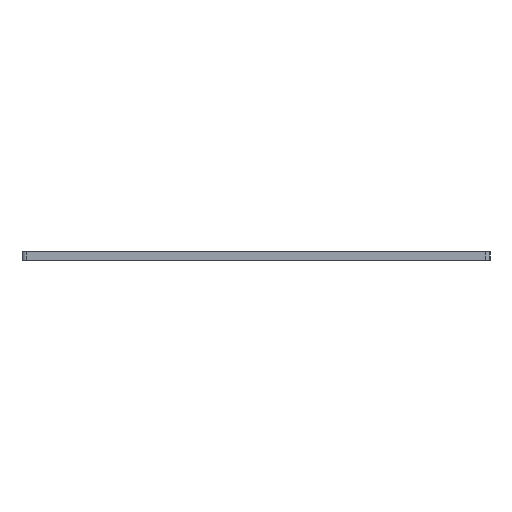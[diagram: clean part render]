
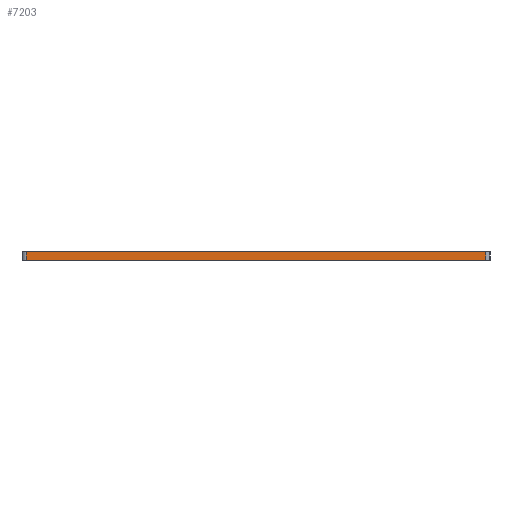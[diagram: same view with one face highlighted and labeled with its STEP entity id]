
A CAD part, left-side view. The second image highlights one B-rep face of the part: STEP entity #7203.
In plain terms, the highlighted planar face has unit normal (-1, 0, 0).
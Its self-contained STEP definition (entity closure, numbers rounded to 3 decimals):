
#44 = PLANE('',#45);
#45 = AXIS2_PLACEMENT_3D('',#46,#47,#48);
#46 = CARTESIAN_POINT('',(149.55,-104.975,-6.));
#47 = DIRECTION('',(0.,0.,1.));
#48 = DIRECTION('',(1.,0.,-0.));
#72 = CYLINDRICAL_SURFACE('',#73,1.);
#73 = AXIS2_PLACEMENT_3D('',#74,#75,#76);
#74 = CARTESIAN_POINT('',(65.9,-160.95,-6.));
#75 = DIRECTION('',(0.,0.,1.));
#76 = DIRECTION('',(0.,-1.,0.));
#100 = PLANE('',#101);
#101 = AXIS2_PLACEMENT_3D('',#102,#103,#104);
#102 = CARTESIAN_POINT('',(149.55,-104.975,-4.));
#103 = DIRECTION('',(0.,0.,1.));
#104 = DIRECTION('',(1.,0.,-0.));
#140 = VERTEX_POINT('',#141);
#141 = CARTESIAN_POINT('',(64.9,-160.95,-6.));
#548 = VERTEX_POINT('',#549);
#549 = CARTESIAN_POINT('',(64.9,-49.,-6.));
#564 = CYLINDRICAL_SURFACE('',#565,1.);
#565 = AXIS2_PLACEMENT_3D('',#566,#567,#568);
#566 = CARTESIAN_POINT('',(65.9,-49.,-6.));
#567 = DIRECTION('',(0.,0.,1.));
#568 = DIRECTION('',(-0.,1.,0.));
#576 = EDGE_CURVE('',#548,#140,#577,.T.);
#577 = SURFACE_CURVE('',#578,(#582,#589),.PCURVE_S1.);
#578 = LINE('',#579,#580);
#579 = CARTESIAN_POINT('',(64.9,-48.,-6.));
#580 = VECTOR('',#581,1.);
#581 = DIRECTION('',(0.,-1.,0.));
#582 = PCURVE('',#44,#583);
#583 = DEFINITIONAL_REPRESENTATION('',(#584),#588);
#584 = LINE('',#585,#586);
#585 = CARTESIAN_POINT('',(-84.65,56.975));
#586 = VECTOR('',#587,1.);
#587 = DIRECTION('',(0.,-1.));
#588 = ( GEOMETRIC_REPRESENTATION_CONTEXT(2) 
PARAMETRIC_REPRESENTATION_CONTEXT() REPRESENTATION_CONTEXT('2D SPACE',''
  ) );
#589 = PCURVE('',#590,#595);
#590 = PLANE('',#591);
#591 = AXIS2_PLACEMENT_3D('',#592,#593,#594);
#592 = CARTESIAN_POINT('',(64.9,-48.,-6.));
#593 = DIRECTION('',(1.,0.,-0.));
#594 = DIRECTION('',(0.,-1.,0.));
#595 = DEFINITIONAL_REPRESENTATION('',(#596),#600);
#596 = LINE('',#597,#598);
#597 = CARTESIAN_POINT('',(0.,0.));
#598 = VECTOR('',#599,1.);
#599 = DIRECTION('',(1.,0.));
#600 = ( GEOMETRIC_REPRESENTATION_CONTEXT(2) 
PARAMETRIC_REPRESENTATION_CONTEXT() REPRESENTATION_CONTEXT('2D SPACE',''
  ) );
#4029 = VERTEX_POINT('',#4030);
#4030 = CARTESIAN_POINT('',(64.9,-160.95,-4.));
#4352 = VERTEX_POINT('',#4353);
#4353 = CARTESIAN_POINT('',(64.9,-49.,-4.));
#4375 = EDGE_CURVE('',#4352,#4029,#4376,.T.);
#4376 = SURFACE_CURVE('',#4377,(#4381,#4388),.PCURVE_S1.);
#4377 = LINE('',#4378,#4379);
#4378 = CARTESIAN_POINT('',(64.9,-48.,-4.));
#4379 = VECTOR('',#4380,1.);
#4380 = DIRECTION('',(0.,-1.,0.));
#4381 = PCURVE('',#100,#4382);
#4382 = DEFINITIONAL_REPRESENTATION('',(#4383),#4387);
#4383 = LINE('',#4384,#4385);
#4384 = CARTESIAN_POINT('',(-84.65,56.975));
#4385 = VECTOR('',#4386,1.);
#4386 = DIRECTION('',(0.,-1.));
#4387 = ( GEOMETRIC_REPRESENTATION_CONTEXT(2) 
PARAMETRIC_REPRESENTATION_CONTEXT() REPRESENTATION_CONTEXT('2D SPACE',''
  ) );
#4388 = PCURVE('',#590,#4389);
#4389 = DEFINITIONAL_REPRESENTATION('',(#4390),#4394);
#4390 = LINE('',#4391,#4392);
#4391 = CARTESIAN_POINT('',(0.,-2.));
#4392 = VECTOR('',#4393,1.);
#4393 = DIRECTION('',(1.,0.));
#4394 = ( GEOMETRIC_REPRESENTATION_CONTEXT(2) 
PARAMETRIC_REPRESENTATION_CONTEXT() REPRESENTATION_CONTEXT('2D SPACE',''
  ) );
#7181 = EDGE_CURVE('',#140,#4029,#7182,.T.);
#7182 = SURFACE_CURVE('',#7183,(#7187,#7194),.PCURVE_S1.);
#7183 = LINE('',#7184,#7185);
#7184 = CARTESIAN_POINT('',(64.9,-160.95,-6.));
#7185 = VECTOR('',#7186,1.);
#7186 = DIRECTION('',(0.,0.,1.));
#7187 = PCURVE('',#72,#7188);
#7188 = DEFINITIONAL_REPRESENTATION('',(#7189),#7193);
#7189 = LINE('',#7190,#7191);
#7190 = CARTESIAN_POINT('',(-1.571,0.));
#7191 = VECTOR('',#7192,1.);
#7192 = DIRECTION('',(-0.,1.));
#7193 = ( GEOMETRIC_REPRESENTATION_CONTEXT(2) 
PARAMETRIC_REPRESENTATION_CONTEXT() REPRESENTATION_CONTEXT('2D SPACE',''
  ) );
#7194 = PCURVE('',#590,#7195);
#7195 = DEFINITIONAL_REPRESENTATION('',(#7196),#7200);
#7196 = LINE('',#7197,#7198);
#7197 = CARTESIAN_POINT('',(112.95,0.));
#7198 = VECTOR('',#7199,1.);
#7199 = DIRECTION('',(0.,-1.));
#7200 = ( GEOMETRIC_REPRESENTATION_CONTEXT(2) 
PARAMETRIC_REPRESENTATION_CONTEXT() REPRESENTATION_CONTEXT('2D SPACE',''
  ) );
#7203 = ADVANCED_FACE('',(#7204),#590,.F.);
#7204 = FACE_BOUND('',#7205,.F.);
#7205 = EDGE_LOOP('',(#7206,#7207,#7228,#7229));
#7206 = ORIENTED_EDGE('',*,*,#576,.F.);
#7207 = ORIENTED_EDGE('',*,*,#7208,.T.);
#7208 = EDGE_CURVE('',#548,#4352,#7209,.T.);
#7209 = SURFACE_CURVE('',#7210,(#7214,#7221),.PCURVE_S1.);
#7210 = LINE('',#7211,#7212);
#7211 = CARTESIAN_POINT('',(64.9,-49.,-6.));
#7212 = VECTOR('',#7213,1.);
#7213 = DIRECTION('',(0.,0.,1.));
#7214 = PCURVE('',#590,#7215);
#7215 = DEFINITIONAL_REPRESENTATION('',(#7216),#7220);
#7216 = LINE('',#7217,#7218);
#7217 = CARTESIAN_POINT('',(1.,0.));
#7218 = VECTOR('',#7219,1.);
#7219 = DIRECTION('',(0.,-1.));
#7220 = ( GEOMETRIC_REPRESENTATION_CONTEXT(2) 
PARAMETRIC_REPRESENTATION_CONTEXT() REPRESENTATION_CONTEXT('2D SPACE',''
  ) );
#7221 = PCURVE('',#564,#7222);
#7222 = DEFINITIONAL_REPRESENTATION('',(#7223),#7227);
#7223 = LINE('',#7224,#7225);
#7224 = CARTESIAN_POINT('',(1.571,0.));
#7225 = VECTOR('',#7226,1.);
#7226 = DIRECTION('',(0.,1.));
#7227 = ( GEOMETRIC_REPRESENTATION_CONTEXT(2) 
PARAMETRIC_REPRESENTATION_CONTEXT() REPRESENTATION_CONTEXT('2D SPACE',''
  ) );
#7228 = ORIENTED_EDGE('',*,*,#4375,.T.);
#7229 = ORIENTED_EDGE('',*,*,#7181,.F.);
